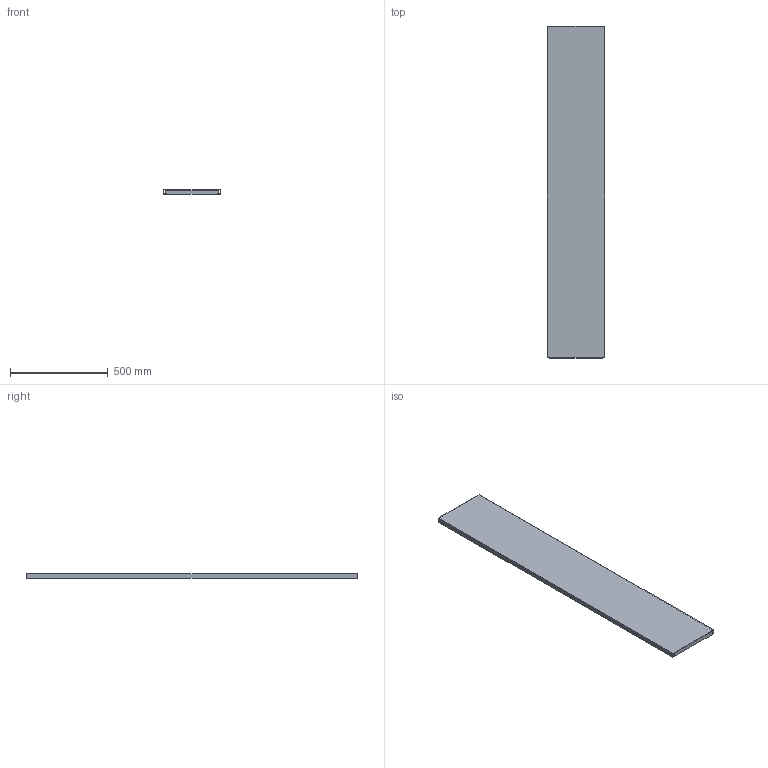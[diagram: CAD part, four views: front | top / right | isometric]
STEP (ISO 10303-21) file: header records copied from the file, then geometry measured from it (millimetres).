
FILE_DESCRIPTION( ( 'STEP AP214' ), '1' );
FILE_NAME( 'p:/temp/worker_174/temp/exporttempdir_2092_87_lTAI5/format_0/MP1804(0).stp', '2021-03-15T23:23:36', ( 'License CC BY-ND 4.0' ), ( 'CADENAS' ), ' ', 'PARTsolutions', ' ' );
FILE_SCHEMA( ( 'AUTOMOTIVE_DESIGN { 1 0 10303 214 1 1 1 1 }' ) );
Length unit declared in the file: millimetre
Products named in the file (2): MP1804(0); _MP1804(0)_P1
Assembly tree (1 placements, depth 2):
  MP1804(0)
    _MP1804(0)_P1
Bounding box: 294 x 1694 x 24.5 mm (x, y, z)
Volume: 1906074 mm3; surface area: 1283430 mm2
Topology: 1 solids, 1 shells, 42 faces, 120 edges, 80 vertices
Faces by surface type: plane 42
Entity records: 1718 total; most frequent: CARTESIAN_POINT 244, ORIENTED_EDGE 240, DIRECTION 208, EDGE_CURVE 120, LINE 120, VECTOR 120, VERTEX_POINT 80, AXIS2_PLACEMENT_3D 44
